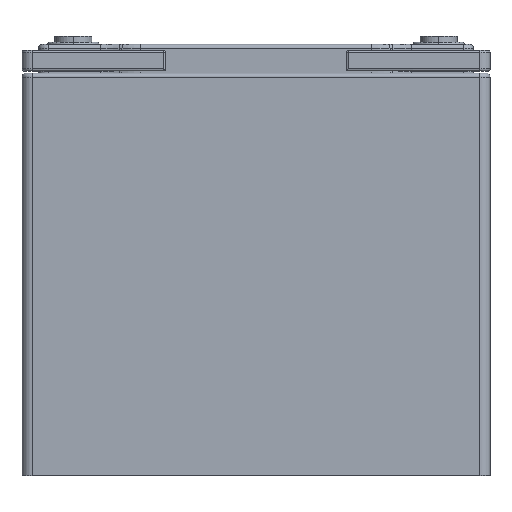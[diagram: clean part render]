
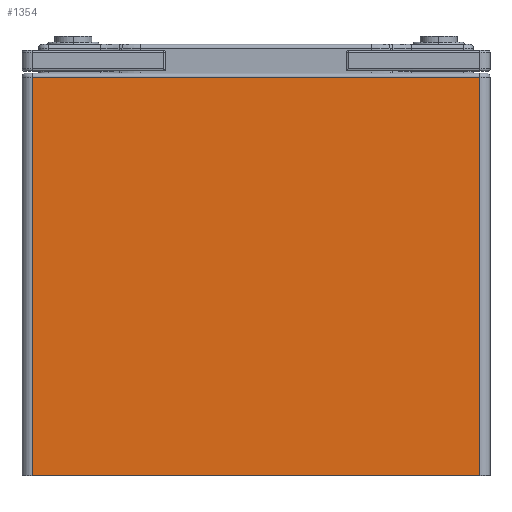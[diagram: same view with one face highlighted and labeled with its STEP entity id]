
A CAD part, top view. The second image highlights one B-rep face of the part: STEP entity #1354.
In plain terms, the highlighted planar face has unit normal (0, 0, 1).
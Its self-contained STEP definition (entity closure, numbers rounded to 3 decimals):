
#137 = CARTESIAN_POINT ( 'NONE',  ( 5., 0., 0. ) ) ;
#155 = DIRECTION ( 'NONE',  ( 1., 0., 0. ) ) ;
#206 = VERTEX_POINT ( 'NONE', #3657 ) ;
#442 = CARTESIAN_POINT ( 'NONE',  ( 5., 0., 0. ) ) ;
#484 = CARTESIAN_POINT ( 'NONE',  ( 5., 194., 0. ) ) ;
#676 = CARTESIAN_POINT ( 'NONE',  ( 5., 194., 0. ) ) ;
#707 = DIRECTION ( 'NONE',  ( -1., 0., 0. ) ) ;
#1083 = DIRECTION ( 'NONE',  ( 0., 0., -1. ) ) ;
#1257 = ORIENTED_EDGE ( 'NONE', *, *, #2820, .T. ) ;
#1354 = ADVANCED_FACE ( 'NONE', ( #5221 ), #1568, .F. ) ;
#1568 = PLANE ( 'NONE',  #4753 ) ;
#1937 = CARTESIAN_POINT ( 'NONE',  ( 5., 196., 0. ) ) ;
#2123 = EDGE_CURVE ( 'NONE', #2374, #3307, #2826, .T. ) ;
#2133 = LINE ( 'NONE', #676, #5250 ) ;
#2374 = VERTEX_POINT ( 'NONE', #442 ) ;
#2700 = DIRECTION ( 'NONE',  ( 0., -1., 0. ) ) ;
#2705 = EDGE_CURVE ( 'NONE', #206, #3307, #4479, .T. ) ;
#2820 = EDGE_CURVE ( 'NONE', #5168, #2374, #2879, .T. ) ;
#2826 = LINE ( 'NONE', #137, #3474 ) ;
#2879 = LINE ( 'NONE', #3489, #3009 ) ;
#2927 = ORIENTED_EDGE ( 'NONE', *, *, #4512, .T. ) ;
#3009 = VECTOR ( 'NONE', #2700, 1000. ) ;
#3307 = VERTEX_POINT ( 'NONE', #3751 ) ;
#3474 = VECTOR ( 'NONE', #155, 1000. ) ;
#3489 = CARTESIAN_POINT ( 'NONE',  ( 5., 196., 0. ) ) ;
#3571 = ORIENTED_EDGE ( 'NONE', *, *, #2123, .T. ) ;
#3657 = CARTESIAN_POINT ( 'NONE',  ( 223., 194., 0. ) ) ;
#3751 = CARTESIAN_POINT ( 'NONE',  ( 223., 0., 0. ) ) ;
#3930 = DIRECTION ( 'NONE',  ( 0., -1., 0. ) ) ;
#4184 = EDGE_LOOP ( 'NONE', ( #5214, #2927, #1257, #3571 ) ) ;
#4479 = LINE ( 'NONE', #5104, #5053 ) ;
#4512 = EDGE_CURVE ( 'NONE', #206, #5168, #2133, .T. ) ;
#4724 = DIRECTION ( 'NONE',  ( -1., 0., 0. ) ) ;
#4753 = AXIS2_PLACEMENT_3D ( 'NONE', #1937, #1083, #707 ) ;
#5053 = VECTOR ( 'NONE', #3930, 1000. ) ;
#5104 = CARTESIAN_POINT ( 'NONE',  ( 223., 196., 0. ) ) ;
#5168 = VERTEX_POINT ( 'NONE', #484 ) ;
#5214 = ORIENTED_EDGE ( 'NONE', *, *, #2705, .F. ) ;
#5221 = FACE_OUTER_BOUND ( 'NONE', #4184, .T. ) ;
#5250 = VECTOR ( 'NONE', #4724, 1000. ) ;
